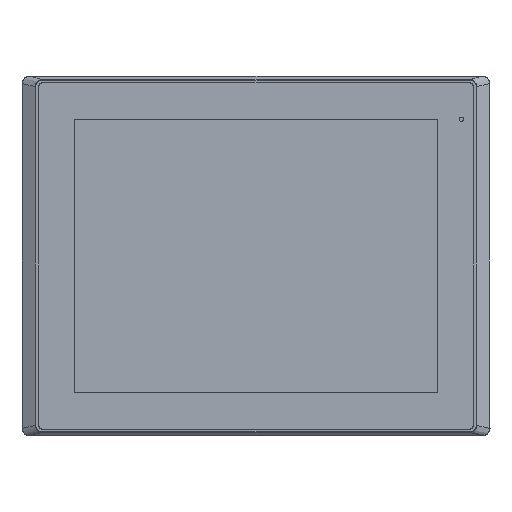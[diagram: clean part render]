
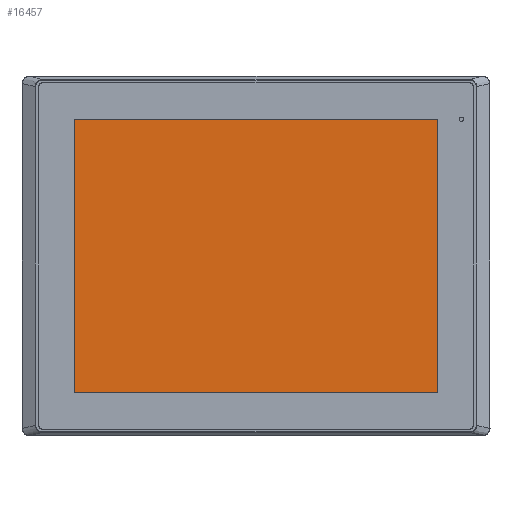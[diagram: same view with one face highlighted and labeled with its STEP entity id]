
A CAD part, top view. The second image highlights one B-rep face of the part: STEP entity #16457.
In plain terms, the highlighted planar face has unit normal (0, 0, 1).
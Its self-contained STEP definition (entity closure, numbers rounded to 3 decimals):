
#7418 = EDGE_CURVE ( 'NONE', #206679, #343817, #320243, .T. ) ;
#9844 = ORIENTED_EDGE ( 'NONE', *, *, #62930, .T. ) ;
#16457 = ADVANCED_FACE ( 'NONE', ( #278706 ), #26385, .T. ) ;
#24238 = CARTESIAN_POINT ( 'NONE',  ( 124., -93.2, 0.65 ) ) ;
#25027 = VECTOR ( 'NONE', #264919, 1000. ) ;
#26385 = PLANE ( 'NONE',  #244444 ) ;
#39019 = DIRECTION ( 'NONE',  ( 0., 1., 0. ) ) ;
#39170 = VERTEX_POINT ( 'NONE', #24238 ) ;
#54110 = CARTESIAN_POINT ( 'NONE',  ( 124., 93.2, 0.65 ) ) ;
#62930 = EDGE_CURVE ( 'NONE', #39170, #143407, #178973, .T. ) ;
#85287 = DIRECTION ( 'NONE',  ( 0., 0., 1. ) ) ;
#87680 = EDGE_LOOP ( 'NONE', ( #316037, #138767, #9844, #125974 ) ) ;
#103733 = CARTESIAN_POINT ( 'NONE',  ( -124., 93.2, 0.65 ) ) ;
#109157 = LINE ( 'NONE', #221457, #268919 ) ;
#125974 = ORIENTED_EDGE ( 'NONE', *, *, #230112, .T. ) ;
#138767 = ORIENTED_EDGE ( 'NONE', *, *, #165819, .T. ) ;
#143407 = VERTEX_POINT ( 'NONE', #54110 ) ;
#151471 = CARTESIAN_POINT ( 'NONE',  ( -124., 93.2, 0.65 ) ) ;
#152589 = CARTESIAN_POINT ( 'NONE',  ( -124., 93.2, 0.65 ) ) ;
#165819 = EDGE_CURVE ( 'NONE', #343817, #39170, #109157, .T. ) ;
#178973 = LINE ( 'NONE', #291367, #212868 ) ;
#197560 = DIRECTION ( 'NONE',  ( 1., 0., 0. ) ) ;
#206679 = VERTEX_POINT ( 'NONE', #151471 ) ;
#212868 = VECTOR ( 'NONE', #39019, 1000. ) ;
#216018 = DIRECTION ( 'NONE',  ( -1., 0., 0. ) ) ;
#221457 = CARTESIAN_POINT ( 'NONE',  ( -124., -93.2, 0.65 ) ) ;
#230112 = EDGE_CURVE ( 'NONE', #143407, #206679, #356097, .T. ) ;
#244444 = AXIS2_PLACEMENT_3D ( 'NONE', #337632, #85287, #197560 ) ;
#264919 = DIRECTION ( 'NONE',  ( 0., -1., 0. ) ) ;
#268919 = VECTOR ( 'NONE', #333873, 1000. ) ;
#278706 = FACE_OUTER_BOUND ( 'NONE', #87680, .T. ) ;
#291367 = CARTESIAN_POINT ( 'NONE',  ( 124., 93.2, 0.65 ) ) ;
#291958 = CARTESIAN_POINT ( 'NONE',  ( -124., -93.2, 0.65 ) ) ;
#316037 = ORIENTED_EDGE ( 'NONE', *, *, #7418, .T. ) ;
#320243 = LINE ( 'NONE', #152589, #25027 ) ;
#333873 = DIRECTION ( 'NONE',  ( 1., 0., 0. ) ) ;
#337632 = CARTESIAN_POINT ( 'NONE',  ( 0., 0., 0.65 ) ) ;
#343817 = VERTEX_POINT ( 'NONE', #291958 ) ;
#344784 = VECTOR ( 'NONE', #216018, 1000. ) ;
#356097 = LINE ( 'NONE', #103733, #344784 ) ;
